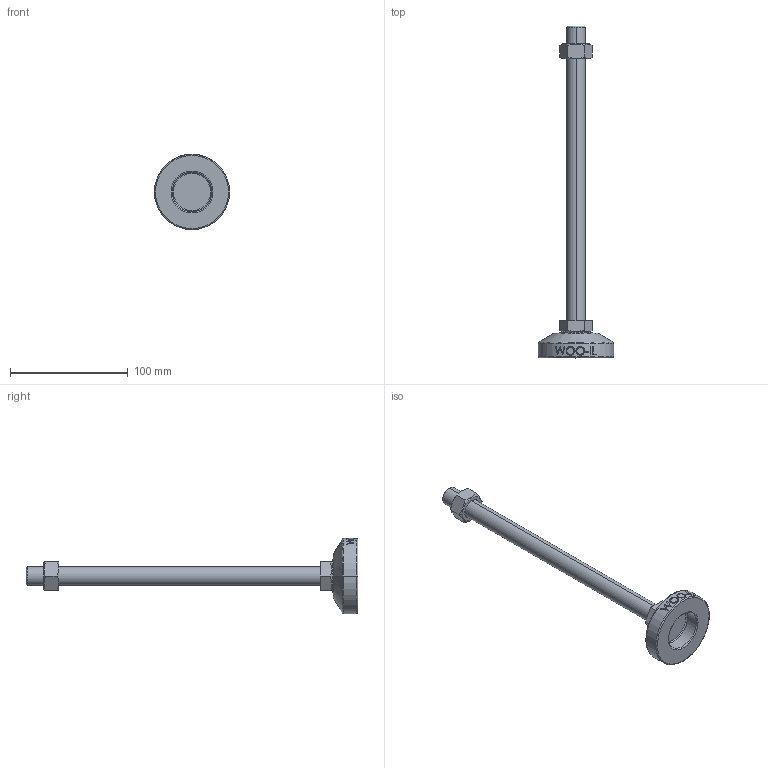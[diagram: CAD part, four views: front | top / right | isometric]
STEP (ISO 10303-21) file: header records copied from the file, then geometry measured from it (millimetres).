
FILE_DESCRIPTION (( 'STEP AP214' ), '1' );
FILE_NAME ('MFZ64-M16-250.step', '2021-01-15T07:06:31', ( '' ), ( '' ), 'SwSTEP 2.0', 'SolidWorks 2019', '' );
FILE_SCHEMA (( 'AUTOMOTIVE_DESIGN' ));
Length unit declared in the file: millimetre
Products named in the file (2): MFZ64-M16-250
Bounding box: 64 x 282 x 64 mm (x, y, z)
Volume: 106657.1 mm3; surface area: 27163.1 mm2
Topology: 3 solids, 3 shells, 106 faces, 243 edges, 154 vertices
Faces by surface type: plane 48, cylinder 18, bspline 16, cone 14, torus 10
Entity records: 4520 total; most frequent: CARTESIAN_POINT 2177, ORIENTED_EDGE 486, DIRECTION 439, EDGE_CURVE 243, AXIS2_PLACEMENT_3D 170, VERTEX_POINT 154, EDGE_LOOP 119, FACE_OUTER_BOUND 106
